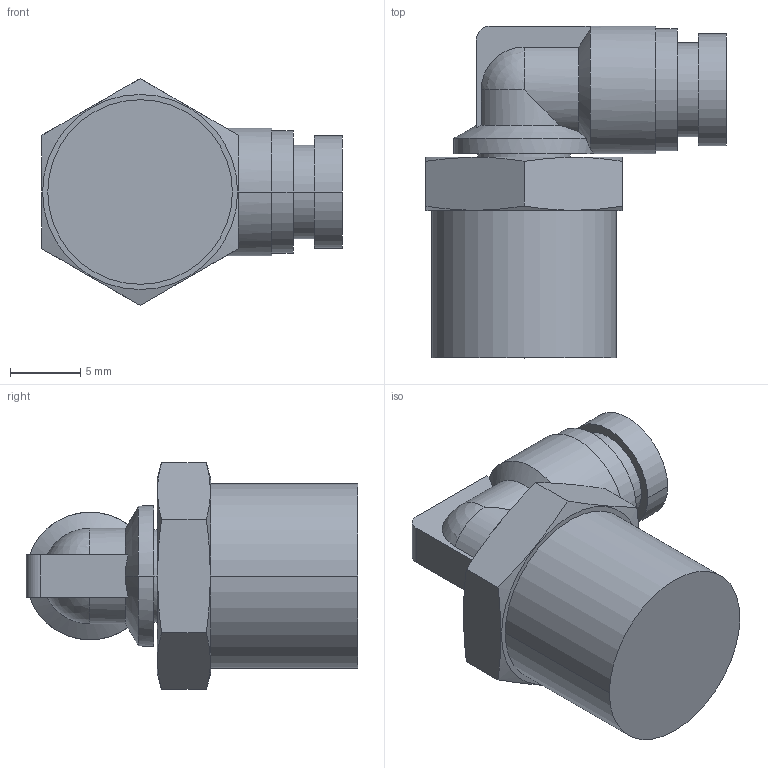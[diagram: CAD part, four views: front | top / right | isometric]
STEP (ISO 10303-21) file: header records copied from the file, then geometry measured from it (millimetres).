
FILE_DESCRIPTION( ( '' ), '1' );
FILE_NAME( 'G:/SMC狟婥/KQ2L04-02AS.stp', '2023-03-07T03:01:50', ( '' ), ( '' ), ' ', ' ', ' ' );
FILE_SCHEMA( ( 'CONFIG_CONTROL_DESIGN' ) );
Length unit declared in the file: millimetre
Products named in the file (1): 1
Bounding box: 21.4 x 23.65 x 16.17 mm (x, y, z)
Volume: 2901.6 mm3; surface area: 1736.2 mm2
Topology: 1 solids, 1 shells, 52 faces, 125 edges, 80 vertices
Faces by surface type: cylinder 21, plane 21, cone 8, sphere 2
Entity records: 1562 total; most frequent: CARTESIAN_POINT 344, DIRECTION 252, ORIENTED_EDGE 246, EDGE_CURVE 123, AXIS2_PLACEMENT_3D 106, VERTEX_POINT 80, EDGE_LOOP 59, ADVANCED_FACE 52
